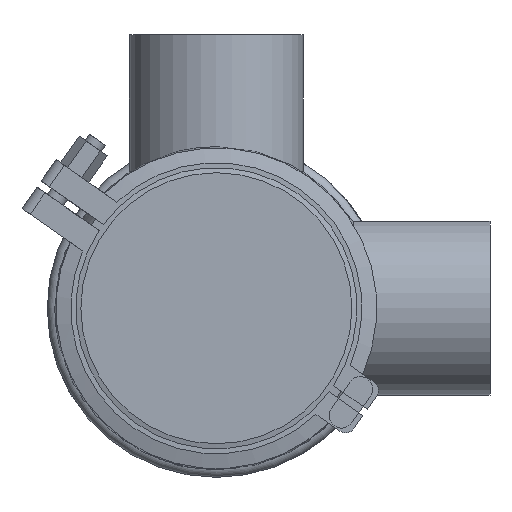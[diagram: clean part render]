
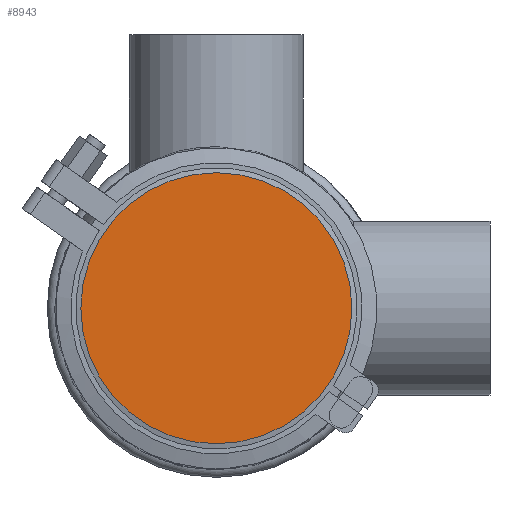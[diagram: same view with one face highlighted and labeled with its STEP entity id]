
A CAD part, front view. The second image highlights one B-rep face of the part: STEP entity #8943.
In plain terms, the highlighted planar face has unit normal (0, -1, 0).
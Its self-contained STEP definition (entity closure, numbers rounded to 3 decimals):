
#3695 = DIRECTION ( 'NONE',  ( 0., 0., -1. ) ) ;
#5271 = AXIS2_PLACEMENT_3D ( 'NONE', #10266, #16773, #5293 ) ;
#5293 = DIRECTION ( 'NONE',  ( 0., 0., 1. ) ) ;
#6272 = CARTESIAN_POINT ( 'NONE',  ( 0., 0., 54.5 ) ) ;
#6398 = PLANE ( 'NONE',  #20015 ) ;
#8943 = ADVANCED_FACE ( 'NONE', ( #14605 ), #6398, .T. ) ;
#10266 = CARTESIAN_POINT ( 'NONE',  ( 0., 0., 0. ) ) ;
#10857 = ORIENTED_EDGE ( 'NONE', *, *, #11222, .F. ) ;
#11036 = CIRCLE ( 'NONE', #5271, 54.5 ) ;
#11222 = EDGE_CURVE ( 'NONE', #13991, #13991, #11036, .T. ) ;
#11387 = DIRECTION ( 'NONE',  ( 0., -1., 0. ) ) ;
#13991 = VERTEX_POINT ( 'NONE', #6272 ) ;
#14605 = FACE_OUTER_BOUND ( 'NONE', #19382, .T. ) ;
#16773 = DIRECTION ( 'NONE',  ( 0., 1., 0. ) ) ;
#19382 = EDGE_LOOP ( 'NONE', ( #10857 ) ) ;
#19500 = CARTESIAN_POINT ( 'NONE',  ( -54.5, 0., 0. ) ) ;
#20015 = AXIS2_PLACEMENT_3D ( 'NONE', #19500, #11387, #3695 ) ;
